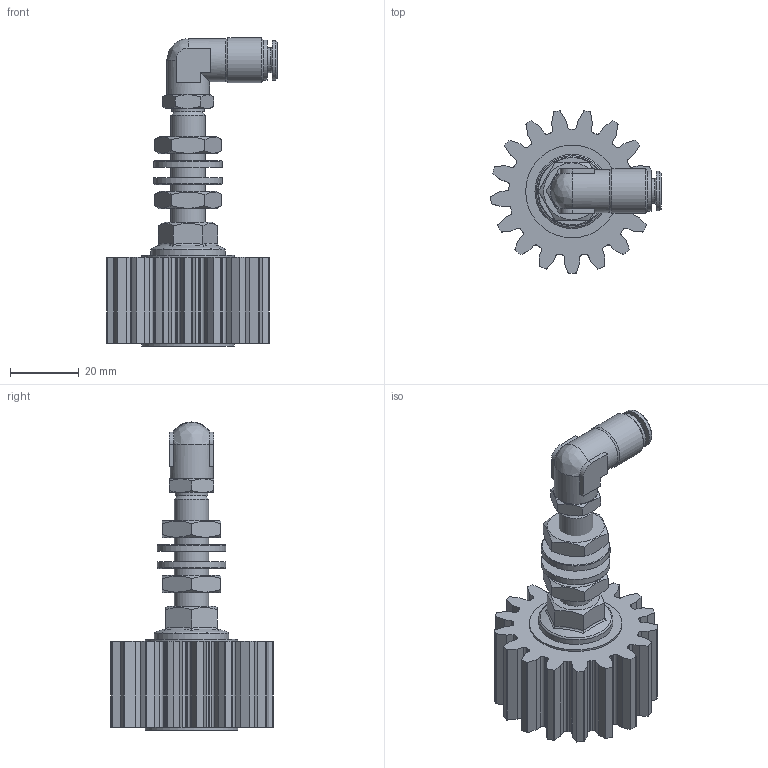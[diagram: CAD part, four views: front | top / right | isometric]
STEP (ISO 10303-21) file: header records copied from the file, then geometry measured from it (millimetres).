
FILE_DESCRIPTION (( 'STEP AP214' ), '1' );
FILE_NAME ('012_13_025_25_17AZ.STEP', '2026-04-01T13:21:50', ( '' ), ( '' ), 'SwSTEP 2.0', 'SolidWorks 2022', '' );
FILE_SCHEMA (( 'AUTOMOTIVE_DESIGN' ));
Length unit declared in the file: millimetre
Products named in the file (13): 012_06_Senkschraube; R11155-N2; Mutter_M10; 12012_06_01_Scheibe-CRS-VA_27.SLDASM; Schmierzahnrad_025_25_17_G; H202225_HDS_022_6_M6_28.09.22; OR 7.2X1.9; H214667-HDS_1-8_M6X1Z; U_Scheibe_10.5; 012_13_025_25_17AZ; Achse_M10_1_Schmierzahnrad; DR6-C_HDX_25.07.16
Assembly tree (14 placements, depth 4):
  012_13_025_25_17AZ
    Achse_M10_1_Schmierzahnrad
    012_06_Senkschraube
    12012_06_01_Scheibe-CRS-VA_27.SLDASM
    Mutter_M10  x2
    U_Scheibe_10.5  x2
    H202225_HDS_022_6_M6_28.09.22
      R11155-N2
      DR6-C_HDX_25.07.16
      H214667-HDS_1-8_M6X1Z
        H214667-HDS_1-8_M6X1Z
        OR 7.2X1.9
    Schmierzahnrad_025_25_17_G
Bounding box: 49.7 x 47.23 x 89.7 mm (x, y, z)
Volume: 46444.9 mm3; surface area: 21339.1 mm2
Topology: 12 solids, 12 shells, 705 faces, 1902 edges, 1258 vertices
Faces by surface type: plane 431, cylinder 125, bspline 95, cone 50, torus 4
Full cylindrical faces by diameter (mm): 2 x1, 4 x1, 4.6 x1, 5 x1, 5.5 x1, 6 x2, 6.2 x1, 6.3 x1, 7.2 x1, 8.5 x2, 9 x2, 9.5 x1, 9.9 x1, 10 x2, 10.1 x2, 10.3 x1, 10.5 x2, 11.5 x1, 11.7 x1, 12.5 x2, 13 x1, 20 x2, 21.6 x1, 27 x2
Entity records: 29583 total; most frequent: CARTESIAN_POINT 11706, ORIENTED_EDGE 3494, DIRECTION 2979, EDGE_CURVE 1747, VERTEX_POINT 1190, LINE 1177, VECTOR 1177, AXIS2_PLACEMENT_3D 901
